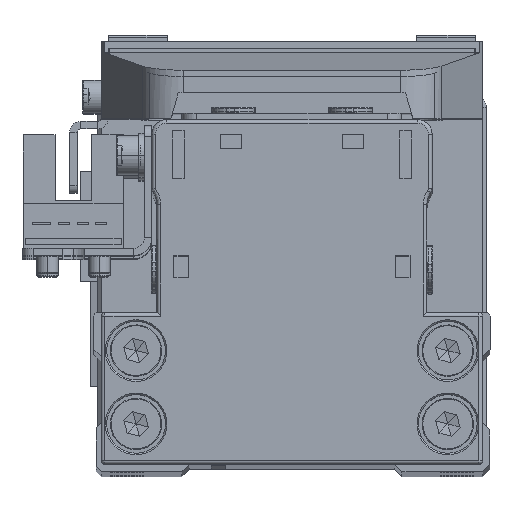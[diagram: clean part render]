
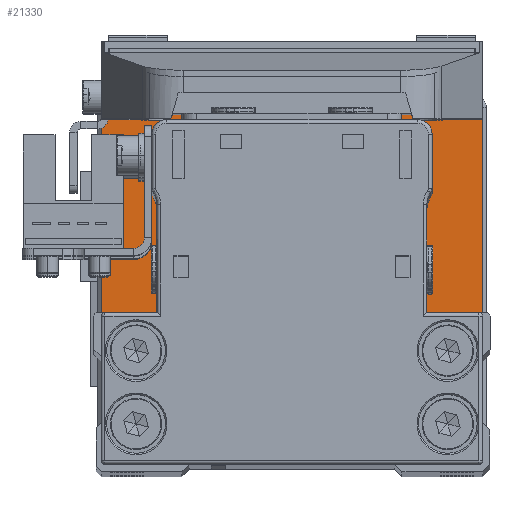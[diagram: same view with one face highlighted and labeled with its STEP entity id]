
A CAD part, top view. The second image highlights one B-rep face of the part: STEP entity #21330.
In plain terms, the highlighted planar face has unit normal (0, 0, 1).
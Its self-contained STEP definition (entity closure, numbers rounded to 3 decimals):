
#375 = VERTEX_POINT ( 'NONE', #19815 ) ;
#554 = ORIENTED_EDGE ( 'NONE', *, *, #6251, .T. ) ;
#592 = VERTEX_POINT ( 'NONE', #5213 ) ;
#888 = DIRECTION ( 'NONE',  ( 0., 0., 1. ) ) ;
#1099 = DIRECTION ( 'NONE',  ( 0., -1., 0. ) ) ;
#1147 = CARTESIAN_POINT ( 'NONE',  ( 26., 23.95, 6.5 ) ) ;
#1228 = CARTESIAN_POINT ( 'NONE',  ( -21.25, 19.95, 6.5 ) ) ;
#1443 = VERTEX_POINT ( 'NONE', #7377 ) ;
#1806 = ORIENTED_EDGE ( 'NONE', *, *, #3642, .T. ) ;
#1987 = AXIS2_PLACEMENT_3D ( 'NONE', #4449, #14908, #25351 ) ;
#2117 = CARTESIAN_POINT ( 'NONE',  ( -25., -24.95, 6.5 ) ) ;
#2572 = DIRECTION ( 'NONE',  ( 0., 0., -1. ) ) ;
#2868 = EDGE_CURVE ( 'NONE', #14004, #375, #30178, .T. ) ;
#2952 = ORIENTED_EDGE ( 'NONE', *, *, #29201, .T. ) ;
#3416 = ORIENTED_EDGE ( 'NONE', *, *, #13883, .T. ) ;
#3642 = EDGE_CURVE ( 'NONE', #23089, #4870, #9991, .T. ) ;
#3782 = DIRECTION ( 'NONE',  ( 0., 0., -1. ) ) ;
#3880 = CARTESIAN_POINT ( 'NONE',  ( -21.25, 9.95, 6.5 ) ) ;
#4278 = AXIS2_PLACEMENT_3D ( 'NONE', #24372, #888, #11376 ) ;
#4449 = CARTESIAN_POINT ( 'NONE',  ( 21.25, 19.95, 6.5 ) ) ;
#4533 = CARTESIAN_POINT ( 'NONE',  ( -25., 24.95, 6.5 ) ) ;
#4581 = DIRECTION ( 'NONE',  ( -1., 0., 0. ) ) ;
#4870 = VERTEX_POINT ( 'NONE', #28306 ) ;
#5213 = CARTESIAN_POINT ( 'NONE',  ( 23.65, 19.95, 6.5 ) ) ;
#5965 = LINE ( 'NONE', #16415, #24512 ) ;
#6251 = EDGE_CURVE ( 'NONE', #10091, #22265, #27237, .T. ) ;
#6392 = ORIENTED_EDGE ( 'NONE', *, *, #11129, .T. ) ;
#6519 = DIRECTION ( 'NONE',  ( 0., 1., 0. ) ) ;
#6722 = CARTESIAN_POINT ( 'NONE',  ( 25., 23.95, 6.5 ) ) ;
#6869 = CARTESIAN_POINT ( 'NONE',  ( -25., 23.95, 6.5 ) ) ;
#7089 = DIRECTION ( 'NONE',  ( -1., 0., 0. ) ) ;
#7317 = CARTESIAN_POINT ( 'NONE',  ( 0., 0., 6.5 ) ) ;
#7377 = CARTESIAN_POINT ( 'NONE',  ( 18.85, 19.95, 6.5 ) ) ;
#7391 = VERTEX_POINT ( 'NONE', #20911 ) ;
#7395 = DIRECTION ( 'NONE',  ( -1., 0., 0. ) ) ;
#8038 = CARTESIAN_POINT ( 'NONE',  ( -18.85, 9.95, 6.5 ) ) ;
#8252 = ORIENTED_EDGE ( 'NONE', *, *, #32524, .T. ) ;
#8513 = CARTESIAN_POINT ( 'NONE',  ( 23.65, 9.95, 6.5 ) ) ;
#9281 = VERTEX_POINT ( 'NONE', #28959 ) ;
#9375 = DIRECTION ( 'NONE',  ( 1., 0., 0. ) ) ;
#9385 = EDGE_CURVE ( 'NONE', #28463, #10207, #5965, .T. ) ;
#9427 = CARTESIAN_POINT ( 'NONE',  ( 26., -23.95, 6.5 ) ) ;
#9714 = ORIENTED_EDGE ( 'NONE', *, *, #9385, .T. ) ;
#9900 = FACE_BOUND ( 'NONE', #33329, .T. ) ;
#9991 = CIRCLE ( 'NONE', #29153, 1. ) ;
#10091 = VERTEX_POINT ( 'NONE', #13378 ) ;
#10207 = VERTEX_POINT ( 'NONE', #16619 ) ;
#10235 = AXIS2_PLACEMENT_3D ( 'NONE', #1228, #11696, #22134 ) ;
#10323 = VERTEX_POINT ( 'NONE', #9427 ) ;
#10501 = CARTESIAN_POINT ( 'NONE',  ( -18.85, 19.95, 6.5 ) ) ;
#11129 = EDGE_CURVE ( 'NONE', #30919, #33469, #19605, .T. ) ;
#11271 = CIRCLE ( 'NONE', #30449, 1. ) ;
#11376 = DIRECTION ( 'NONE',  ( 1., 0., 0. ) ) ;
#11388 = EDGE_LOOP ( 'NONE', ( #554, #24147 ) ) ;
#11549 = CARTESIAN_POINT ( 'NONE',  ( 21.25, 9.95, 6.5 ) ) ;
#11669 = ORIENTED_EDGE ( 'NONE', *, *, #23577, .T. ) ;
#11696 = DIRECTION ( 'NONE',  ( 0., 0., -1. ) ) ;
#12215 = CIRCLE ( 'NONE', #31368, 2.4 ) ;
#12464 = AXIS2_PLACEMENT_3D ( 'NONE', #26058, #2572, #13060 ) ;
#12474 = FACE_BOUND ( 'NONE', #19926, .T. ) ;
#12894 = CIRCLE ( 'NONE', #32056, 1. ) ;
#13060 = DIRECTION ( 'NONE',  ( -1., 0., 0. ) ) ;
#13378 = CARTESIAN_POINT ( 'NONE',  ( -23.65, 9.95, 6.5 ) ) ;
#13883 = EDGE_CURVE ( 'NONE', #7391, #23089, #20099, .T. ) ;
#14004 = VERTEX_POINT ( 'NONE', #10501 ) ;
#14147 = LINE ( 'NONE', #24595, #14965 ) ;
#14259 = DIRECTION ( 'NONE',  ( -1., 0., 0. ) ) ;
#14358 = DIRECTION ( 'NONE',  ( 0., 0., -1. ) ) ;
#14897 = ORIENTED_EDGE ( 'NONE', *, *, #33690, .T. ) ;
#14908 = DIRECTION ( 'NONE',  ( 0., 0., -1. ) ) ;
#14965 = VECTOR ( 'NONE', #1099, 1000. ) ;
#14999 = EDGE_CURVE ( 'NONE', #592, #1443, #15133, .T. ) ;
#15133 = CIRCLE ( 'NONE', #19507, 2.4 ) ;
#15376 = AXIS2_PLACEMENT_3D ( 'NONE', #17624, #28094, #4581 ) ;
#15494 = ORIENTED_EDGE ( 'NONE', *, *, #20840, .T. ) ;
#16415 = CARTESIAN_POINT ( 'NONE',  ( 25., -24.95, 6.5 ) ) ;
#16619 = CARTESIAN_POINT ( 'NONE',  ( 25., -24.95, 6.5 ) ) ;
#16774 = CIRCLE ( 'NONE', #1987, 2.4 ) ;
#17173 = DIRECTION ( 'NONE',  ( 0., 0., 1. ) ) ;
#17330 = DIRECTION ( 'NONE',  ( 0., 0., 1. ) ) ;
#17381 = EDGE_CURVE ( 'NONE', #22265, #10091, #12215, .T. ) ;
#17624 = CARTESIAN_POINT ( 'NONE',  ( -21.25, 19.95, 6.5 ) ) ;
#17754 = DIRECTION ( 'NONE',  ( 0., 0., 1. ) ) ;
#17853 = EDGE_CURVE ( 'NONE', #4870, #9281, #14147, .T. ) ;
#19049 = CIRCLE ( 'NONE', #4278, 1. ) ;
#19507 = AXIS2_PLACEMENT_3D ( 'NONE', #27290, #3782, #14259 ) ;
#19522 = LINE ( 'NONE', #30005, #27719 ) ;
#19605 = CIRCLE ( 'NONE', #23968, 2.4 ) ;
#19815 = CARTESIAN_POINT ( 'NONE',  ( -23.65, 19.95, 6.5 ) ) ;
#19926 = EDGE_LOOP ( 'NONE', ( #15494, #33772 ) ) ;
#20099 = LINE ( 'NONE', #30588, #31103 ) ;
#20344 = FACE_OUTER_BOUND ( 'NONE', #30078, .T. ) ;
#20421 = CARTESIAN_POINT ( 'NONE',  ( 21.25, 9.95, 6.5 ) ) ;
#20840 = EDGE_CURVE ( 'NONE', #1443, #592, #16774, .T. ) ;
#20911 = CARTESIAN_POINT ( 'NONE',  ( 25., 24.95, 6.5 ) ) ;
#21330 = ADVANCED_FACE ( 'NONE', ( #12474, #22917, #33402, #9900, #20344 ), #30817, .T. ) ;
#22000 = DIRECTION ( 'NONE',  ( 0., 0., -1. ) ) ;
#22134 = DIRECTION ( 'NONE',  ( -1., 0., 0. ) ) ;
#22265 = VERTEX_POINT ( 'NONE', #8038 ) ;
#22396 = CARTESIAN_POINT ( 'NONE',  ( 25., -23.95, 6.5 ) ) ;
#22664 = EDGE_LOOP ( 'NONE', ( #8252, #6392 ) ) ;
#22917 = FACE_BOUND ( 'NONE', #22664, .T. ) ;
#23089 = VERTEX_POINT ( 'NONE', #4533 ) ;
#23577 = EDGE_CURVE ( 'NONE', #10207, #10323, #11271, .T. ) ;
#23968 = AXIS2_PLACEMENT_3D ( 'NONE', #11549, #22000, #32459 ) ;
#24147 = ORIENTED_EDGE ( 'NONE', *, *, #17381, .T. ) ;
#24372 = CARTESIAN_POINT ( 'NONE',  ( -25., -23.95, 6.5 ) ) ;
#24512 = VECTOR ( 'NONE', #26874, 1000. ) ;
#24595 = CARTESIAN_POINT ( 'NONE',  ( -26., -23.95, 6.5 ) ) ;
#24798 = DIRECTION ( 'NONE',  ( -1., 0., 0. ) ) ;
#25003 = CIRCLE ( 'NONE', #10235, 2.4 ) ;
#25351 = DIRECTION ( 'NONE',  ( -1., 0., 0. ) ) ;
#26058 = CARTESIAN_POINT ( 'NONE',  ( -21.25, 9.95, 6.5 ) ) ;
#26874 = DIRECTION ( 'NONE',  ( 1., 0., 0. ) ) ;
#27237 = CIRCLE ( 'NONE', #12464, 2.4 ) ;
#27290 = CARTESIAN_POINT ( 'NONE',  ( 21.25, 19.95, 6.5 ) ) ;
#27633 = DIRECTION ( 'NONE',  ( 1., 0., 0. ) ) ;
#27719 = VECTOR ( 'NONE', #6519, 1000. ) ;
#27813 = DIRECTION ( 'NONE',  ( 1., 0., 0. ) ) ;
#28094 = DIRECTION ( 'NONE',  ( 0., 0., -1. ) ) ;
#28225 = DIRECTION ( 'NONE',  ( 1., 0., 0. ) ) ;
#28306 = CARTESIAN_POINT ( 'NONE',  ( -26., 23.95, 6.5 ) ) ;
#28463 = VERTEX_POINT ( 'NONE', #2117 ) ;
#28765 = EDGE_CURVE ( 'NONE', #30984, #7391, #12894, .T. ) ;
#28856 = CIRCLE ( 'NONE', #33237, 2.4 ) ;
#28959 = CARTESIAN_POINT ( 'NONE',  ( -26., -23.95, 6.5 ) ) ;
#28977 = ORIENTED_EDGE ( 'NONE', *, *, #28765, .T. ) ;
#29016 = ORIENTED_EDGE ( 'NONE', *, *, #17853, .T. ) ;
#29153 = AXIS2_PLACEMENT_3D ( 'NONE', #6869, #17330, #27813 ) ;
#29201 = EDGE_CURVE ( 'NONE', #10323, #30984, #19522, .T. ) ;
#29958 = AXIS2_PLACEMENT_3D ( 'NONE', #7317, #17754, #28225 ) ;
#30005 = CARTESIAN_POINT ( 'NONE',  ( 26., 23.95, 6.5 ) ) ;
#30078 = EDGE_LOOP ( 'NONE', ( #1806, #29016, #14897, #9714, #11669, #2952, #28977, #3416 ) ) ;
#30116 = EDGE_CURVE ( 'NONE', #375, #14004, #25003, .T. ) ;
#30178 = CIRCLE ( 'NONE', #15376, 2.4 ) ;
#30449 = AXIS2_PLACEMENT_3D ( 'NONE', #22396, #32873, #9375 ) ;
#30588 = CARTESIAN_POINT ( 'NONE',  ( -25., 24.95, 6.5 ) ) ;
#30817 = PLANE ( 'NONE',  #29958 ) ;
#30893 = DIRECTION ( 'NONE',  ( 0., 0., -1. ) ) ;
#30919 = VERTEX_POINT ( 'NONE', #8513 ) ;
#30929 = CARTESIAN_POINT ( 'NONE',  ( 18.85, 9.95, 6.5 ) ) ;
#30984 = VERTEX_POINT ( 'NONE', #1147 ) ;
#31103 = VECTOR ( 'NONE', #7089, 1000. ) ;
#31272 = ORIENTED_EDGE ( 'NONE', *, *, #2868, .T. ) ;
#31368 = AXIS2_PLACEMENT_3D ( 'NONE', #3880, #14358, #24798 ) ;
#32056 = AXIS2_PLACEMENT_3D ( 'NONE', #6722, #17173, #27633 ) ;
#32244 = ORIENTED_EDGE ( 'NONE', *, *, #30116, .T. ) ;
#32459 = DIRECTION ( 'NONE',  ( -1., 0., 0. ) ) ;
#32524 = EDGE_CURVE ( 'NONE', #33469, #30919, #28856, .T. ) ;
#32873 = DIRECTION ( 'NONE',  ( 0., 0., 1. ) ) ;
#33237 = AXIS2_PLACEMENT_3D ( 'NONE', #20421, #30893, #7395 ) ;
#33329 = EDGE_LOOP ( 'NONE', ( #32244, #31272 ) ) ;
#33402 = FACE_BOUND ( 'NONE', #11388, .T. ) ;
#33469 = VERTEX_POINT ( 'NONE', #30929 ) ;
#33690 = EDGE_CURVE ( 'NONE', #9281, #28463, #19049, .T. ) ;
#33772 = ORIENTED_EDGE ( 'NONE', *, *, #14999, .T. ) ;
